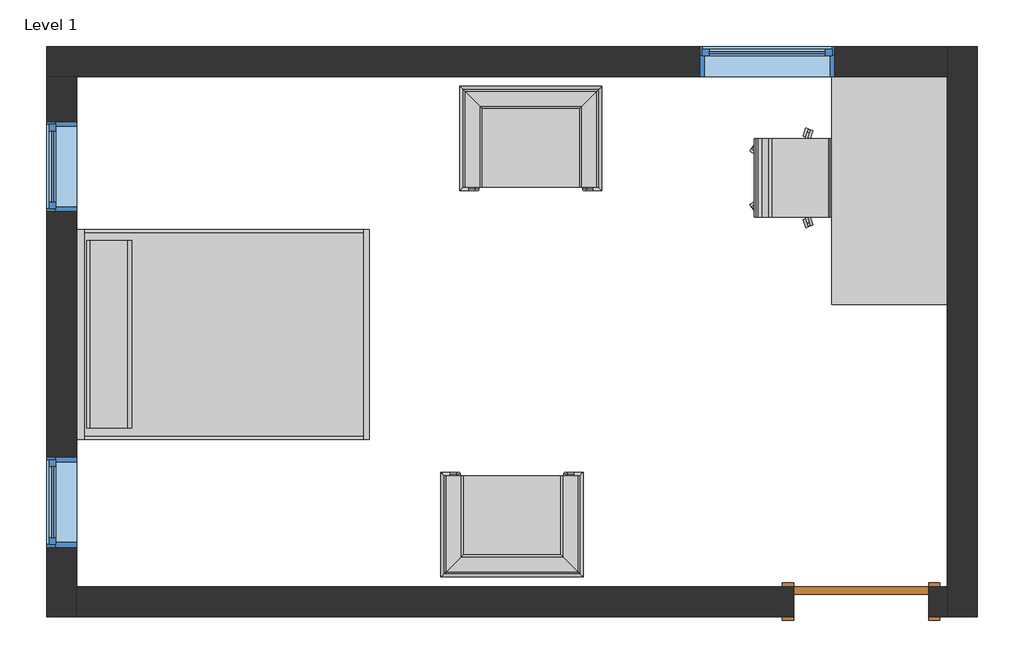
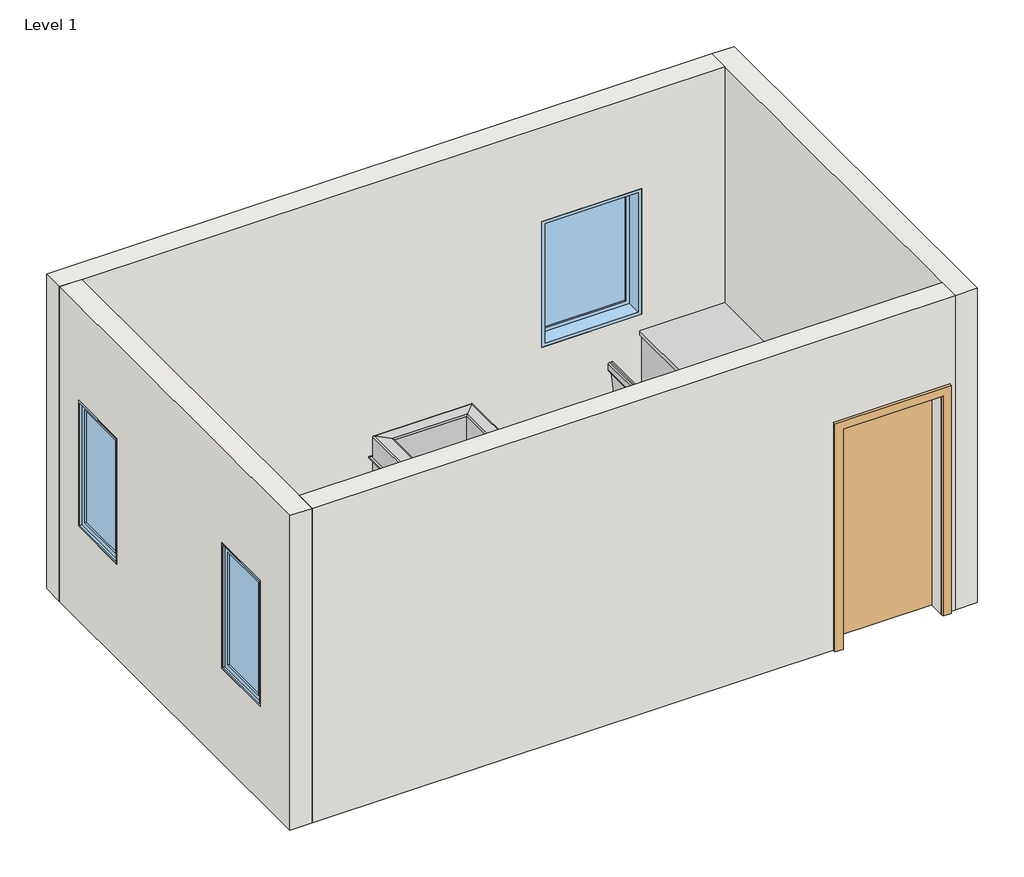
# One storey: 5 furniture elements, 4 walls, 3 windows, 1 door.
"""IFC4 building model written with IfcOpenShell, lengths in millimetres."""

from ifc_helpers import new_model, si_unit, frame, origin, place, context, project, spatial, polyline, outline, extrude, faceted_brep, transform, mapped, element, save
from components import door_54dd4da4, furniture_096e7f55, chair_corbu_chair_corbu_2764bdef, chair_corbu_chair_corbu_95fad79a, chair_task_chair_task_b7f3823b, furniture_072f6425, window_80bd9af0, window_9110666e, window_e2841890

model = new_model("IFC4")

# Units and contexts
model_context = context("Model", 3, world=origin())
ifc_project = project(units=[si_unit("LENGTHUNIT", "METRE", prefix="MILLI")], contexts=[model_context])

# Site, building, storey
site = spatial("IfcSite", under=ifc_project)
building = spatial("IfcBuilding", under=site)
storey = spatial("IfcBuildingStorey", under=building, Name="Level 1", Elevation=0.0)

# Door
placement = place(None, origin())
door_shape = door_54dd4da4(model_context)
element("IfcDoor", 1, ObjectType="Single-Flush : 36\" x 84\"", at=placement, inside=storey, context=model_context, shape_type="MappedRepresentation", body=[
    mapped(door_shape, transform((-3553.1010445, 7369.6879665, 0.0), x_axis=(1.0, 0.0, 0.0), y_axis=(0.0, 1.0, 0.0), z_axis=(0.0, 0.0, 1.0))),
])

# Furniture
furniture_shape = furniture_096e7f55(model_context)
element("IfcFurniture", 2, ObjectType="Bed-Shaker : Double 56\" x 78\"", at=placement, inside=storey, context=model_context, shape_type="MappedRepresentation", body=[
    mapped(furniture_shape, transform((-8861.7010445, 9198.4879665, 0.0), x_axis=(0.0, 1.0, 0.0), y_axis=(-1.0, 0.0, 0.0), z_axis=(0.0, 0.0, 1.0))),
])
chair_corbu_chair_corbu_shape = chair_corbu_chair_corbu_2764bdef(model_context)
element("IfcFurniture", 3, ObjectType="Chair-Corbu : Chair-Corbu", at=placement, inside=storey, context=model_context, shape_type="MappedRepresentation", body=[
    mapped(chair_corbu_chair_corbu_shape, transform((-6361.674815, 10039.8109173, 0.0), x_axis=(1.0, 0.0, 0.0), y_axis=(0.0, 1.0, 0.0), z_axis=(0.0, 0.0, 1.0))),
])
chair_corbu_chair_corbu_2_shape = chair_corbu_chair_corbu_95fad79a(model_context)
element("IfcFurniture", 4, ObjectType="Chair-Corbu : Chair-Corbu", at=placement, inside=storey, context=model_context, shape_type="MappedRepresentation", body=[
    mapped(chair_corbu_chair_corbu_2_shape, transform((-6488.674815, 8357.1650156, 0.0), x_axis=(1.0, 0.0, 0.0), y_axis=(0.0, 1.0, 0.0), z_axis=(0.0, 0.0, 1.0))),
])
chair_task_chair_task_shape = chair_task_chair_task_b7f3823b(model_context)
element("IfcFurniture", 5, ObjectType="Chair-Task : Chair-Task", at=placement, inside=storey, context=model_context, shape_type="MappedRepresentation", body=[
    mapped(chair_task_chair_task_shape, transform((-4029.2469461, 10380.8787861, 0.0), x_axis=(0.0, -1.0, 0.0), y_axis=(1.0, 0.0, 0.0), z_axis=(0.0, 0.0, 1.0))),
])
furniture_2_shape = furniture_072f6425(model_context)
element("IfcFurniture", 6, ObjectType="Desk : 60\" x 30\"", at=placement, inside=storey, context=model_context, shape_type="MappedRepresentation", body=[
    mapped(furniture_2_shape, transform((-3730.9010445, 10925.6879665, 0.0), x_axis=(0.0, -1.0, 0.0), y_axis=(1.0, 0.0, 0.0), z_axis=(0.0, 0.0, 1.0))),
])

# Walls
element("IfcWall", 7, ObjectType="Generic - 8\"", at=placement, inside=storey, context=model_context, shape_type="Brep", body=[
    faceted_brep([(-9064.9010445, 10925.6879665, 0.0), (-8861.7010445, 10925.6879665, 0.0), (-2968.9010445, 10925.6879665, 0.0), (-2968.9010445, 10925.6879665, 3048.0), (-8861.7010445, 10925.6879665, 3048.0), (-9064.9010445, 10925.6879665, 3048.0), (-3730.9010445, 10925.6879665, 2133.6), (-3730.9010445, 10925.6879665, 914.4), (-4645.3010445, 10925.6879665, 914.4), (-4645.3010445, 10925.6879665, 2133.6), (-9064.9010445, 11128.8879665, 0.0), (-9064.9010445, 11128.8879665, 3048.0), (-2968.9010445, 11128.8879665, 3048.0), (-2968.9010445, 11128.8879665, 0.0), (-3730.9010445, 11128.8879665, 2133.6), (-4645.3010445, 11128.8879665, 2133.6), (-4645.3010445, 11128.8879665, 914.4), (-3730.9010445, 11128.8879665, 914.4)], [[[0, 1, 2, 3, 4, 5], [6, 7, 8, 9]], [[10, 11, 12, 13], [14, 15, 16, 17]], [[2, 1, 0, 10, 13]], [[5, 4, 3, 12, 11]], [[3, 2, 13, 12]], [[0, 5, 11, 10]], [[7, 6, 14, 17]], [[8, 7, 17, 16]], [[9, 8, 16, 15]], [[6, 9, 15, 14]]]),
])
element("IfcWall", 8, ObjectType="Generic - 8\"", at=placement, inside=storey, context=model_context, shape_type="Brep", body=[
    faceted_brep([(-8861.7010445, 7268.0879665, 0.0), (-8861.7010445, 7471.2879665, 0.0), (-8861.7010445, 10925.6879665, 0.0), (-8861.7010445, 10925.6879665, 3048.0), (-8861.7010445, 7471.2879665, 3048.0), (-8861.7010445, 7268.0879665, 3048.0), (-8861.7010445, 7737.9879665, 2133.6), (-8861.7010445, 8347.5879665, 2133.6), (-8861.7010445, 8347.5879665, 914.4), (-8861.7010445, 7737.9879665, 914.4), (-8861.7010445, 10620.8879665, 2133.6), (-8861.7010445, 10620.8879665, 914.4), (-8861.7010445, 10011.2879665, 914.4), (-8861.7010445, 10011.2879665, 2133.6), (-9064.9010445, 7268.0879665, 0.0), (-9064.9010445, 7268.0879665, 3048.0), (-9064.9010445, 10925.6879665, 3048.0), (-9064.9010445, 10925.6879665, 0.0), (-9064.9010445, 7737.9879665, 2133.6), (-9064.9010445, 7737.9879665, 914.4), (-9064.9010445, 8347.5879665, 914.4), (-9064.9010445, 8347.5879665, 2133.6), (-9064.9010445, 10620.8879665, 2133.6), (-9064.9010445, 10011.2879665, 2133.6), (-9064.9010445, 10011.2879665, 914.4), (-9064.9010445, 10620.8879665, 914.4)], [[[0, 1, 2, 3, 4, 5], [6, 7, 8, 9], [10, 11, 12, 13]], [[14, 15, 16, 17], [18, 19, 20, 21], [22, 23, 24, 25]], [[2, 1, 0, 14, 17]], [[5, 4, 3, 16, 15]], [[0, 5, 15, 14]], [[3, 2, 17, 16]], [[19, 18, 6, 9]], [[20, 19, 9, 8]], [[21, 20, 8, 7]], [[18, 21, 7, 6]], [[11, 10, 22, 25]], [[12, 11, 25, 24]], [[13, 12, 24, 23]], [[10, 13, 23, 22]]]),
])
element("IfcWall", 9, ObjectType="Generic - 8\"", at=placement, inside=storey, context=model_context, shape_type="SweptSolid", body=[
    extrude(outline(polyline([(2133.6, -3095.9010445), (0.0, -3095.9010445), (0.0, -2968.9010445), (3048.0, -2968.9010445), (3048.0, -8861.7010445), (0.0, -8861.7010445), (0.0, -4010.3010445), (2133.6, -4010.3010445), (2133.6, -3095.9010445)])), frame((0.0, 7268.0879665, 0.0), z_axis=(0.0, 1.0, 0.0), x_axis=(0.0, 0.0, 1.0)), (0.0, 0.0, 1.0), 203.2),
])
element("IfcWall", 10, ObjectType="Generic - 8\"", at=placement, inside=storey, context=model_context, shape_type="Brep", body=[
    faceted_brep([(-2968.9010445, 11128.8879665, 0.0), (-2968.9010445, 10925.6879665, 0.0), (-2968.9010445, 7471.2879665, 0.0), (-2968.9010445, 7268.0879665, 0.0), (-2968.9010445, 7268.0879665, 3048.0), (-2968.9010445, 7471.2879665, 3048.0), (-2968.9010445, 10925.6879665, 3048.0), (-2968.9010445, 11128.8879665, 3048.0), (-2765.7010445, 11128.8879665, 0.0), (-2765.7010445, 11128.8879665, 3048.0), (-2765.7010445, 7268.0879665, 3048.0), (-2765.7010445, 7268.0879665, 0.0)], [[[0, 1, 2, 3, 4, 5, 6, 7]], [[8, 9, 10, 11]], [[3, 2, 1, 0, 8, 11]], [[7, 6, 5, 4, 10, 9]], [[0, 7, 9, 8]], [[4, 3, 11, 10]]]),
])

# Windows
window_shape = window_80bd9af0(model_context)
element("IfcWindow", 11, ObjectType="Fixed : 24\" x 48\"", at=placement, inside=storey, context=model_context, shape_type="MappedRepresentation", body=[
    mapped(window_shape, transform((-8963.3010445, 10354.1879665, 0.0), x_axis=(0.0, 1.0, 0.0), y_axis=(-1.0, 0.0, 0.0), z_axis=(0.0, 0.0, 1.0))),
])
window_2_shape = window_9110666e(model_context)
element("IfcWindow", 12, ObjectType="Fixed : 24\" x 48\"", at=placement, inside=storey, context=model_context, shape_type="MappedRepresentation", body=[
    mapped(window_2_shape, transform((-8963.3010445, 8004.6879665, 0.0), x_axis=(0.0, -1.0, 0.0), y_axis=(1.0, 0.0, 0.0), z_axis=(0.0, 0.0, 1.0))),
])
window_3_shape = window_e2841890(model_context)
element("IfcWindow", 13, ObjectType="Fixed : 36\" x 48\"", at=placement, inside=storey, context=model_context, shape_type="MappedRepresentation", body=[
    mapped(window_3_shape, transform((-4150.0010445, 11027.2879665, 0.0), x_axis=(1.0, 0.0, 0.0), y_axis=(0.0, 1.0, 0.0), z_axis=(0.0, 0.0, 1.0))),
])

save(model, "model.ifc")
